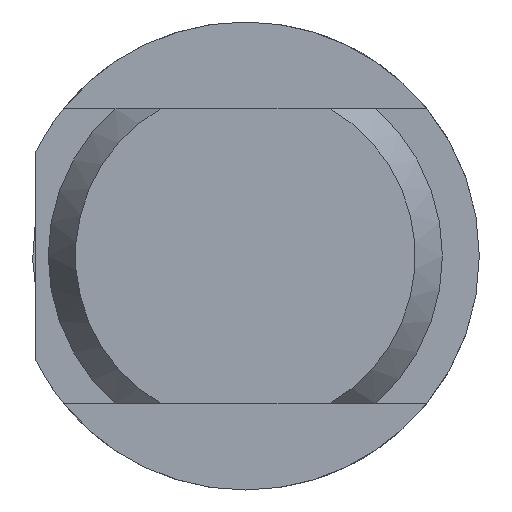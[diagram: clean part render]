
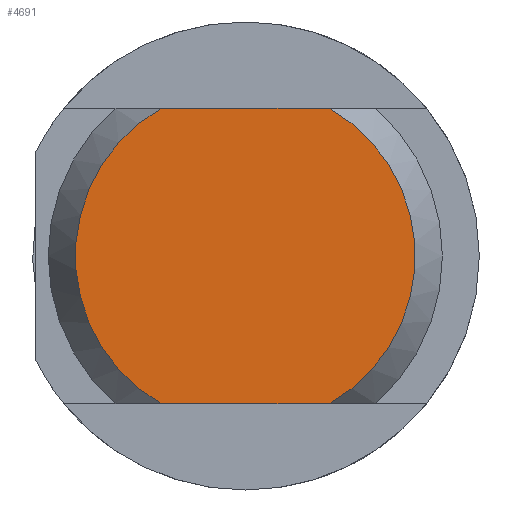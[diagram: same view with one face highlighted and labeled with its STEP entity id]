
A CAD part, left-side view. The second image highlights one B-rep face of the part: STEP entity #4691.
In plain terms, the highlighted planar face has unit normal (-1, 0, 0).
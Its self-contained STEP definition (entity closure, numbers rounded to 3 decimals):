
#26 = VERTEX_POINT ( 'NONE', #4130 ) ;
#37 = CARTESIAN_POINT ( 'NONE',  ( 0., -3.407, 6. ) ) ;
#260 = CARTESIAN_POINT ( 'NONE',  ( 0., 0., 0. ) ) ;
#426 = EDGE_CURVE ( 'NONE', #517, #26, #922, .T. ) ;
#517 = VERTEX_POINT ( 'NONE', #37 ) ;
#554 = DIRECTION ( 'NONE',  ( 1., 0., 0. ) ) ;
#583 = PLANE ( 'NONE',  #2766 ) ;
#709 = VERTEX_POINT ( 'NONE', #3087 ) ;
#792 = DIRECTION ( 'NONE',  ( 0., 0., -1. ) ) ;
#922 = LINE ( 'NONE', #4050, #3603 ) ;
#1364 = EDGE_CURVE ( 'NONE', #2459, #517, #2989, .T. ) ;
#1622 = DIRECTION ( 'NONE',  ( -1., 0., 0. ) ) ;
#1838 = ORIENTED_EDGE ( 'NONE', *, *, #1364, .T. ) ;
#2189 = AXIS2_PLACEMENT_3D ( 'NONE', #2385, #1622, #792 ) ;
#2385 = CARTESIAN_POINT ( 'NONE',  ( 0., 0., 0. ) ) ;
#2459 = VERTEX_POINT ( 'NONE', #2847 ) ;
#2513 = EDGE_CURVE ( 'NONE', #709, #2459, #3618, .T. ) ;
#2556 = CARTESIAN_POINT ( 'NONE',  ( 0., 0., 0. ) ) ;
#2581 = VECTOR ( 'NONE', #3082, 1000. ) ;
#2596 = CIRCLE ( 'NONE', #4097, 6.9 ) ;
#2766 = AXIS2_PLACEMENT_3D ( 'NONE', #260, #3906, #4282 ) ;
#2847 = CARTESIAN_POINT ( 'NONE',  ( 0., -3.407, -6. ) ) ;
#2967 = DIRECTION ( 'NONE',  ( 0., 0., -1. ) ) ;
#2989 = CIRCLE ( 'NONE', #2189, 6.9 ) ;
#3082 = DIRECTION ( 'NONE',  ( 0., -1., 0. ) ) ;
#3087 = CARTESIAN_POINT ( 'NONE',  ( 0., 3.407, -6. ) ) ;
#3221 = FACE_OUTER_BOUND ( 'NONE', #5005, .T. ) ;
#3461 = CARTESIAN_POINT ( 'NONE',  ( 0., 8.5, -6. ) ) ;
#3603 = VECTOR ( 'NONE', #4484, 1000. ) ;
#3618 = LINE ( 'NONE', #3461, #2581 ) ;
#3906 = DIRECTION ( 'NONE',  ( -1., 0., 0. ) ) ;
#4027 = EDGE_CURVE ( 'NONE', #709, #26, #2596, .T. ) ;
#4050 = CARTESIAN_POINT ( 'NONE',  ( 0., 8.5, 6. ) ) ;
#4066 = ORIENTED_EDGE ( 'NONE', *, *, #2513, .T. ) ;
#4097 = AXIS2_PLACEMENT_3D ( 'NONE', #2556, #554, #2967 ) ;
#4130 = CARTESIAN_POINT ( 'NONE',  ( 0., 3.407, 6. ) ) ;
#4282 = DIRECTION ( 'NONE',  ( 0., 0., 1. ) ) ;
#4484 = DIRECTION ( 'NONE',  ( 0., 1., 0. ) ) ;
#4510 = ORIENTED_EDGE ( 'NONE', *, *, #426, .T. ) ;
#4691 = ADVANCED_FACE ( 'NONE', ( #3221 ), #583, .T. ) ;
#4807 = ORIENTED_EDGE ( 'NONE', *, *, #4027, .F. ) ;
#5005 = EDGE_LOOP ( 'NONE', ( #4066, #1838, #4510, #4807 ) ) ;
